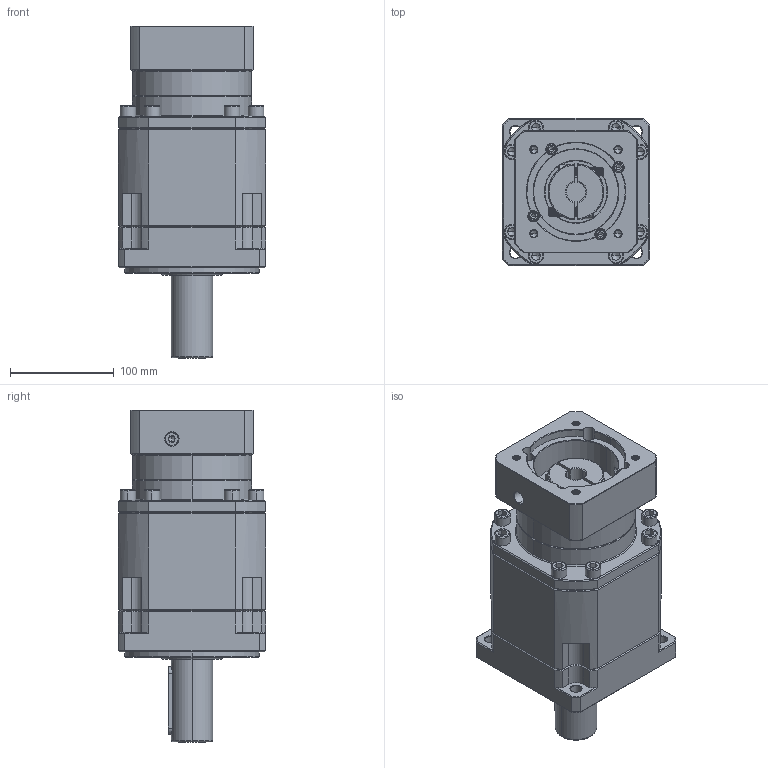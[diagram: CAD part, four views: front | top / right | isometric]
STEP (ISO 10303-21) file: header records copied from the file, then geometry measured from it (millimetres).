
FILE_DESCRIPTION (( 'STEP AP214' ), '1' );
FILE_NAME ('ZB142A-D40-L3-P2-19-95-115-M8.step', '2023-09-02T02:51:26', ( '' ), ( '' ), 'SwSTEP 2.0', 'SolidWorks 2016', '' );
FILE_SCHEMA (( 'AUTOMOTIVE_DESIGN' ));
Length unit declared in the file: millimetre
Products named in the file (1): ZB142A-D40-L3-P2-19-95-115-M8
Bounding box: 142 x 142 x 320.7 mm (x, y, z)
Volume: 3711863.3 mm3; surface area: 259097.2 mm2
Topology: 6 solids, 6 shells, 2566 faces, 6741 edges, 4297 vertices
Faces by surface type: plane 1205, cylinder 497, bspline 425, cone 401, torus 38
Entity records: 136688 total; most frequent: CARTESIAN_POINT 48568, ORIENTED_EDGE 13374, DIRECTION 10936, EDGE_CURVE 6687, VERTEX_POINT 4297, LINE 4222, VECTOR 4222, AXIS2_PLACEMENT_3D 3357
